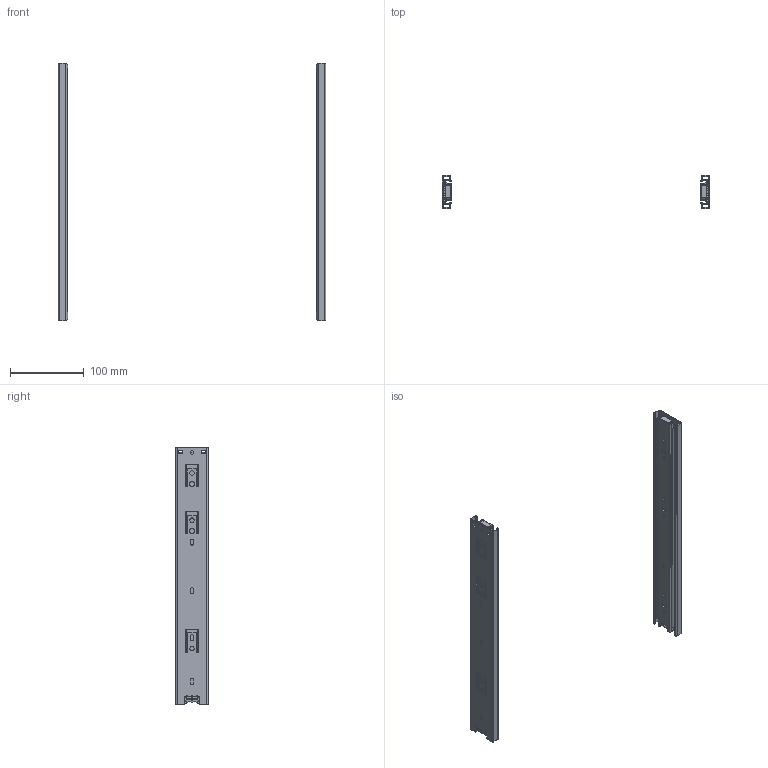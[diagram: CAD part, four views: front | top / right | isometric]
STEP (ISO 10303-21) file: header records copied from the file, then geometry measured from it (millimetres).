
FILE_DESCRIPTION(/* description */ (''),/* implementation_level */ '2;1');
FILE_NAME(/* name */ 'D:\$Workingspace\Designs\Katalog\Cadsoft\GTV Prowadnice\PK-PRO-H45\PK-PRO-H45-350.stp',/* time_stamp */ '2021-01-15T13:16:01+01:00',/* author */ ('tomaszw'),/* organization */ (''),/* preprocessor_version */ 'ST-DEVELOPER v18.1',/* originating_system */ 'Autodesk Inventor 2020',/* authorisation */ '');
FILE_SCHEMA (('AUTOMOTIVE_DESIGN { 1 0 10303 214 3 1 1 }'));
Length unit declared in the file: millimetre
Products named in the file (5): PK-PRO-H45-350; Blokada_4; PK-PRO-H45_1-350; PK-PRO-H45_2-350; PK-PRO-H45_3-350
Assembly tree (8 placements, depth 2):
  PK-PRO-H45-350
    Blokada_4  x2
    PK-PRO-H45_1-350  x2
    PK-PRO-H45_2-350  x2
    PK-PRO-H45_3-350  x2
Bounding box: 364 x 44.5 x 350 mm (x, y, z)
Volume: 132954.8 mm3; surface area: 216737.3 mm2
Topology: 8 solids, 8 shells, 466 faces, 1358 edges, 908 vertices
Faces by surface type: cylinder 238, plane 224, cone 4
Full cylindrical faces by diameter (mm): 4.5 x6, 5 x2, 5.2 x2, 6 x6, 7 x4
Entity records: 8471 total; most frequent: CARTESIAN_POINT 1483, DIRECTION 1407, ORIENTED_EDGE 1358, EDGE_CURVE 679, AXIS2_PLACEMENT_3D 490, VERTEX_POINT 454, LINE 427, VECTOR 427
